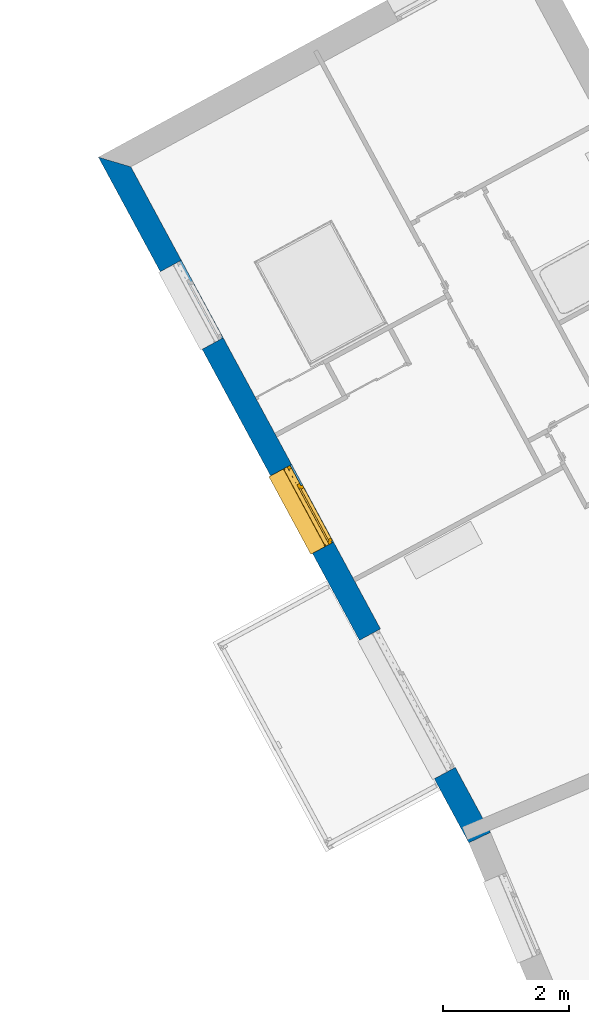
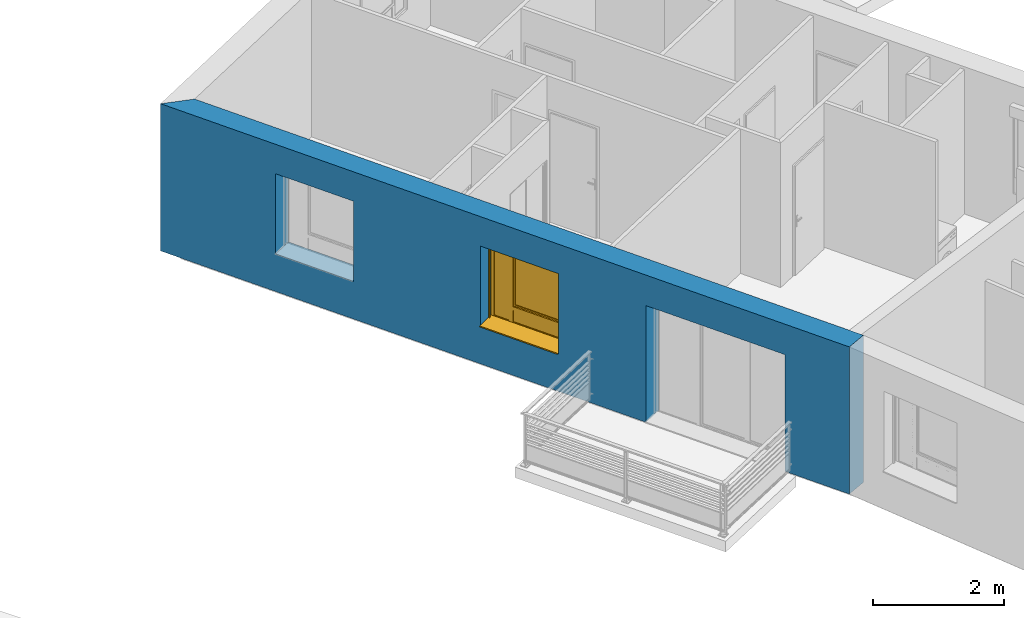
# One storey, part 51 of 121: 1 wall, 1 window, 3 openings.
"""IFC2X3 building model written with IfcOpenShell, lengths in metres."""

from ifc_helpers import new_model, entity, si_unit, converted_unit, derived_unit, money_unit, direction, frame, origin_with_axes, place, context, subcontext, project, spatial, polyline, outline, extrude, open_shell, faceted_brep, surface_model, source, transform, mapped, material, layer, layer_set, layer_usage, type_object, element, fill, save


model = new_model("IFC2X3")

# Units and contexts
model_context = context("Model", 3, precision=1e-05, world=origin_with_axes(), true_north=direction((0.0, 1.0)))
body_context = subcontext(model_context, "Body", "Model", "MODEL_VIEW")
ifc_project = project(units=[si_unit("LENGTHUNIT", "METRE"), si_unit("AREAUNIT", "SQUARE_METRE"), si_unit("VOLUMEUNIT", "CUBIC_METRE"), converted_unit("PLANEANGLEUNIT", "DEGREE", entity("IfcPlaneAngleMeasure", 0.0174532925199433), si_unit("PLANEANGLEUNIT", "RADIAN"), dimensions=[0, 0, 0, 0, 0, 0, 0]), money_unit("CHF"), converted_unit("TIMEUNIT", "Year", entity("IfcTimeMeasure", 31557600.0), si_unit("TIMEUNIT", "SECOND"), dimensions=[0, 0, 1, 0, 0, 0, 0]), si_unit("MASSUNIT", "GRAM", prefix="KILO"), si_unit("THERMODYNAMICTEMPERATUREUNIT", "DEGREE_CELSIUS"), si_unit("LUMINOUSINTENSITYUNIT", "LUMEN"), si_unit("ENERGYUNIT", "JOULE", prefix="MEGA"), derived_unit("THERMALCONDUCTANCEUNIT", [(si_unit("POWERUNIT", "WATT"), 1), (si_unit("LENGTHUNIT", "METRE"), -1), (si_unit("THERMODYNAMICTEMPERATUREUNIT", "KELVIN"), -1)]), derived_unit("SPECIFICHEATCAPACITYUNIT", [(si_unit("ENERGYUNIT", "JOULE"), 1), (si_unit("MASSUNIT", "GRAM", prefix="KILO"), -1), (si_unit("THERMODYNAMICTEMPERATUREUNIT", "KELVIN"), -1)]), derived_unit("MASSDENSITYUNIT", [(si_unit("MASSUNIT", "GRAM", prefix="KILO"), 1), (si_unit("VOLUMEUNIT", "CUBIC_METRE"), -1)])], contexts=[model_context])

# Site, building, storey
site_placement = place(None, origin_with_axes())
site = spatial("IfcSite", under=ifc_project, at=site_placement, Name="Site", CompositionType="ELEMENT")
building_placement = place(site_placement, origin_with_axes())
building = spatial("IfcBuilding", under=site, at=building_placement, Name="Bâtiment", CompositionType="ELEMENT")
storey_placement = place(building_placement, frame((0.0, 0.0, 2.75), z_axis=(0.0, 0.0, 1.0), x_axis=(1.0, 0.0, 0.0)))
storey = spatial("IfcBuildingStorey", under=building, at=storey_placement, Name="Etage 1", CompositionType="ELEMENT", Elevation=2.75)

# Wall, openings, window
ifc_material_1 = material(Name="Parpaing 312445824")
ifc_layer_1 = layer(ifc_material_1, 0.22, ventilated="UNKNOWN")
ifc_material_2 = material(Name="Isolant styromousse 301821074")
ifc_layer_2 = layer(ifc_material_2, 0.16, ventilated="UNKNOWN")
ifc_layer_set = layer_set([ifc_layer_1, ifc_layer_2], Name="isol int 22+16 0836643197")
ifc_layer_usage = layer_usage(ifc_layer_set, "AXIS2", "NEGATIVE", 0.0)
wall_type = type_object("IfcWallType", Name="isol int 22+16 0836643197 380", PredefinedType="NOTDEFINED")
wall_placement = place(storey_placement, frame((9560.431539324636, -1038.56391735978, 57.7), z_axis=(0.0, 0.0, 1.0), x_axis=(-0.4753186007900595, 0.8798137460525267, 0.0)))
wall = element("IfcWallStandardCase", 1, at=wall_placement, inside=storey, type_object=wall_type, material=ifc_layer_usage, Name="Mur-114", context=body_context, shape_type="SweptSolid", body=[
    extrude(outline(polyline([(-0.0183016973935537, -0.3799999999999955), (12.00124293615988, -0.3799999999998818), (12.38026927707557, 0.0), (0.0, 0.0), (-0.0183016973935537, -0.3799999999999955)])), origin_with_axes(), (0.0, 0.0, 1.0), 2.75),
])
opening_1_placement = place(wall_placement, frame((5.925867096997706, 0.0, 0.7000000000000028), z_axis=(0.0, 0.0, 1.0), x_axis=(1.0, 0.0, 0.0)))
opening_1 = element("IfcOpeningElement", 2, at=opening_1_placement, cuts=wall, Name="Fen-045", context=body_context, shape_type="Brep", body=[
    faceted_brep([(0.6999999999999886, -0.4800000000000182, 1.5), (-0.6999999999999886, -0.4799999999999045, 1.5), (-0.6999999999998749, -5.558327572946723, 1.5), (0.7000000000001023, -5.558327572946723, 1.5), (0.6999999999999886, -0.4800000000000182, 1.700000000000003), (-0.6999999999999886, -0.4799999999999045, 1.700000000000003), (-0.6999999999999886, -0.2999999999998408, 1.5), (-0.6999999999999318, -0.2999999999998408, 0.0), (-0.6999999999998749, -5.558327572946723, 0.0), (0.7000000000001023, -5.558327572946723, 0.0), (0.6999999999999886, -0.2999999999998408, 1.5), (0.7000000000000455, -0.2999999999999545, 0.0), (0.7000000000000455, -0.2200000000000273, 1.5), (0.7000000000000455, -0.2200000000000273, 1.700000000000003), (-0.6999999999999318, -0.2199999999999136, 1.700000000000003), (-0.6999999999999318, -0.2199999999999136, 1.5), (-0.6999999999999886, 5.178327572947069, 1.5), (-0.6999999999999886, 5.178327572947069, 0.0), (0.6999999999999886, 5.178327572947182, 0.0), (0.6999999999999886, 5.178327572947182, 1.5)], [[[0, 1, 2, 3]], [[1, 0, 4, 5]], [[1, 6, 7, 8, 2]], [[2, 8, 9, 3]], [[10, 0, 3, 9, 11]], [[0, 10, 12, 13, 4]], [[4, 13, 14, 5]], [[6, 1, 5, 14, 15]], [[6, 15, 16, 17, 7]], [[7, 11, 9, 8]], [[12, 10, 11, 18, 19]], [[12, 15, 14, 13]], [[15, 12, 19, 16]], [[19, 18, 17, 16]], [[11, 7, 17, 18]]]),
])
opening_2_placement = place(wall_placement, frame((2.406972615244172, 0.0, 0.0), z_axis=(0.0, 0.0, 1.0), x_axis=(1.0, 0.0, 0.0)))
element("IfcOpeningElement", 3, at=opening_2_placement, cuts=wall, Name="Fen-045", context=body_context, shape_type="Brep", body=[
    faceted_brep([(1.250000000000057, -0.4800000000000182, 2.18), (-1.25, -0.4800000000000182, 2.18), (-1.25, -5.558327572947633, 2.18), (1.25, -5.558327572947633, 2.18), (1.250000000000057, -0.4800000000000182, 2.380000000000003), (-1.25, -0.4800000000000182, 2.380000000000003), (-1.249999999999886, -0.3000000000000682, 2.18), (-1.25, -0.3000000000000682, 0.0), (-1.25, -5.558327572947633, 0.0), (1.25, -5.558327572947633, 0.0), (1.250000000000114, -0.3000000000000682, 2.18), (1.250000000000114, -0.3000000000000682, 0.0), (1.250000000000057, -0.2199999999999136, 2.18), (1.250000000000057, -0.2199999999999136, 2.380000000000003), (-1.25, -0.2200000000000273, 2.380000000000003), (-1.25, -0.2200000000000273, 2.18), (-1.25, 5.178327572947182, 2.18), (-1.25, 5.178327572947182, 0.0), (1.25, 5.178327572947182, 0.0), (1.25, 5.178327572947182, 2.18)], [[[0, 1, 2, 3]], [[1, 0, 4, 5]], [[1, 6, 7, 8, 2]], [[2, 8, 9, 3]], [[10, 0, 3, 9, 11]], [[0, 10, 12, 13, 4]], [[4, 13, 14, 5]], [[6, 1, 5, 14, 15]], [[6, 15, 16, 17, 7]], [[7, 11, 9, 8]], [[12, 10, 11, 18, 19]], [[12, 15, 14, 13]], [[15, 12, 19, 16]], [[19, 18, 17, 16]], [[11, 7, 17, 18]]]),
])
opening_3_placement = place(wall_placement, frame((9.612364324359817, 0.0, 0.7000000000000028), z_axis=(0.0, 0.0, 1.0), x_axis=(1.0, 0.0, 0.0)))
element("IfcOpeningElement", 4, at=opening_3_placement, cuts=wall, Name="Fen-045", context=body_context, shape_type="Brep", body=[
    faceted_brep([(0.7000000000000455, -0.4799999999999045, 1.5), (-0.6999999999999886, -0.4799999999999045, 1.5), (-0.6999999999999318, -5.558327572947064, 1.5), (0.7000000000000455, -5.558327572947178, 1.5), (0.7000000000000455, -0.4799999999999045, 1.700000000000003), (-0.6999999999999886, -0.4799999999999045, 1.700000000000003), (-0.6999999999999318, -0.2999999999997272, 1.5), (-0.6999999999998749, -0.2999999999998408, 0.0), (-0.6999999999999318, -5.558327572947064, 0.0), (0.7000000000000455, -5.558327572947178, 0.0), (0.7000000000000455, -0.2999999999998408, 1.5), (0.7000000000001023, -0.2999999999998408, 0.0), (0.6999999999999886, -0.2199999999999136, 1.5), (0.6999999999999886, -0.2199999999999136, 1.700000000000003), (-0.6999999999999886, -0.2199999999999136, 1.700000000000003), (-0.6999999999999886, -0.2199999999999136, 1.5), (-0.6999999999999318, 5.178327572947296, 1.5), (-0.6999999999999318, 5.178327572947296, 0.0), (0.7000000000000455, 5.178327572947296, 0.0), (0.7000000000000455, 5.178327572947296, 1.5)], [[[0, 1, 2, 3]], [[1, 0, 4, 5]], [[1, 6, 7, 8, 2]], [[2, 8, 9, 3]], [[10, 0, 3, 9, 11]], [[0, 10, 12, 13, 4]], [[4, 13, 14, 5]], [[6, 1, 5, 14, 15]], [[6, 15, 16, 17, 7]], [[7, 11, 9, 8]], [[12, 10, 11, 18, 19]], [[12, 15, 14, 13]], [[15, 12, 19, 16]], [[19, 18, 17, 16]], [[11, 7, 17, 18]]]),
])
window_style = type_object("IfcWindowStyle", Name="Fenêtre variable 27", ConstructionType="NOTDEFINED", OperationType="TRIPLE_PANEL_LEFT", ParameterTakesPrecedence=False, Sizeable=False)
shared_shape = source(origin_with_axes(), body_context, "Body", "SurfaceModel", [
    surface_model("IfcShellBasedSurfaceModel", [(0.7, -0.05100000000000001, 0.05), (-0.7, -0.05100000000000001, 0.05000000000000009), (-0.7, -0.05100000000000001, 0.04000000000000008), (0.7, -0.05100000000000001, 0.04), (-0.7, -0.3799999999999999, 0.02900000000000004), (0.7, -0.3799999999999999, 0.02899999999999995), (-0.7, -0.3799999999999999, 0.00900000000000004), (0.7, -0.3799999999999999, 0.008999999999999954), (-0.7, -0.3699999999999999, 0.01900000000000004), (0.7, -0.3699999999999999, 0.01899999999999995)], [open_shell([[[0, 1, 2, 3]], [[3, 2, 4, 5]], [[5, 4, 6, 7]], [[7, 6, 8, 9]]])]),
    faceted_brep([(0.7, -0.13, 1.7), (0.7, 0.13, 1.7), (0.697, 0.13, 1.7), (0.697, -0.13, 1.7), (0.7, -0.13, 1.5), (0.7, 0.13, 1.5), (0.697, 0.13, 1.5), (0.697, -0.13, 1.5)], [[[0, 1, 2, 3]], [[0, 4, 5, 1]], [[1, 5, 6, 2]], [[3, 2, 6, 7]], [[4, 0, 3, 7]], [[5, 4, 7, 6]]]),
    faceted_brep([(-0.6970000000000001, -0.1299999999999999, 1.7), (-0.6970000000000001, 0.1300000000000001, 1.7), (-0.7000000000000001, 0.1300000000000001, 1.7), (-0.7000000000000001, -0.1299999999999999, 1.7), (-0.6970000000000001, -0.1299999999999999, 1.5), (-0.6970000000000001, 0.1300000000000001, 1.5), (-0.7000000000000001, 0.1300000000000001, 1.5), (-0.7000000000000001, -0.1299999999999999, 1.5)], [[[0, 1, 2, 3]], [[0, 4, 5, 1]], [[1, 5, 6, 2]], [[3, 2, 6, 7]], [[4, 0, 3, 7]], [[5, 4, 7, 6]]]),
    faceted_brep([(0.697, -0.13, 1.5), (0.697, -0.13, 1.7), (-0.697, -0.1299999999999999, 1.7), (-0.697, -0.1299999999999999, 1.5), (0.697, -0.127, 1.5), (0.697, -0.127, 1.697), (0.697, 0.127, 1.697), (0.697, 0.127, 1.503), (0.697, -0.108, 1.503), (0.697, -0.108, 1.5), (0.697, 0.13, 1.5), (0.697, 0.13, 1.7), (-0.697, 0.1300000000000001, 1.7), (-0.697, 0.1300000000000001, 1.5), (-0.697, -0.1079999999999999, 1.5), (-0.697, -0.1079999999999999, 1.503), (-0.697, 0.1270000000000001, 1.503), (-0.697, 0.1270000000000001, 1.697), (-0.697, -0.1269999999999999, 1.697), (-0.697, -0.1269999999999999, 1.5)], [[[0, 1, 2, 3]], [[0, 4, 5, 6, 7, 8, 9, 10, 11, 1]], [[1, 11, 12, 2]], [[3, 2, 12, 13, 14, 15, 16, 17, 18, 19]], [[4, 0, 3, 19]], [[5, 4, 19, 18]], [[6, 5, 18, 17]], [[7, 6, 17, 16]], [[8, 7, 16, 15]], [[9, 8, 15, 14]], [[10, 9, 14, 13]], [[11, 10, 13, 12]]]),
    faceted_brep([(0.694, -0.08075423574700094, 1.585760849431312), (0.694, -0.07705479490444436, 1.571954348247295), (0.694, -0.07101408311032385, 1.559), (0.694, -0.06281564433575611, 1.547291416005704), (0.694, -0.05270858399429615, 1.537184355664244), (0.694, -0.04099999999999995, 1.528985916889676), (0.694, -0.02804565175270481, 1.522945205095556), (0.694, -0.01423915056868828, 1.519245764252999), (0.694, 0.0, 1.518), (0.694, 0.01423915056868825, 1.519245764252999), (0.694, 0.02804565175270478, 1.522945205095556), (0.694, 0.04099999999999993, 1.528985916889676), (0.694, 0.05270858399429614, 1.537184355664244), (0.694, 0.06281564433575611, 1.547291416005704), (0.694, 0.07101408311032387, 1.559), (0.694, 0.07705479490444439, 1.571954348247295), (0.694, 0.08075423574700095, 1.585760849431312), (0.694, 0.0819999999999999, 1.6), (0.694, 0.08075423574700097, 1.614239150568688), (0.694, 0.0770547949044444, 1.628045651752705), (0.694, 0.07101408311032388, 1.641), (0.694, 0.06281564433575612, 1.652708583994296), (0.694, 0.05270858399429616, 1.662815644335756), (0.694, 0.04099999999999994, 1.671014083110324), (0.694, 0.02804565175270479, 1.677054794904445), (0.694, 0.01423915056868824, 1.680754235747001), (0.694, 0.0, 1.682), (0.694, -0.01423915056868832, 1.680754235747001), (0.694, -0.02804565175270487, 1.677054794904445), (0.694, -0.04100000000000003, 1.671014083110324), (0.694, -0.05270858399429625, 1.662815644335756), (0.694, -0.06281564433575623, 1.652708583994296), (0.694, -0.07101408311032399, 1.641), (0.694, -0.07705479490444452, 1.628045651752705), (0.694, -0.0807542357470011, 1.614239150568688), (0.694, -0.08200000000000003, 1.6), (-0.694, -0.08075423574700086, 1.585760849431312), (-0.694, -0.07705479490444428, 1.571954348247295), (-0.694, -0.07101408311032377, 1.559), (-0.694, -0.06281564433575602, 1.547291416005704), (-0.694, -0.05270858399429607, 1.537184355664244), (-0.694, -0.04099999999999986, 1.528985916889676), (-0.694, -0.02804565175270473, 1.522945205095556), (-0.694, -0.0142391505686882, 1.519245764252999), (-0.694, 0.0, 1.518), (-0.694, 0.01423915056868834, 1.519245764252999), (-0.694, 0.02804565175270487, 1.522945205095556), (-0.694, 0.04100000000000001, 1.528985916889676), (-0.694, 0.05270858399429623, 1.537184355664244), (-0.694, 0.06281564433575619, 1.547291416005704), (-0.694, 0.07101408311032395, 1.559), (-0.694, 0.07705479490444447, 1.571954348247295), (-0.694, 0.08075423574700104, 1.585760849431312), (-0.694, 0.08199999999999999, 1.6), (-0.694, 0.08075423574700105, 1.614239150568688), (-0.694, 0.07705479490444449, 1.628045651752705), (-0.694, 0.07101408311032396, 1.641), (-0.694, 0.0628156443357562, 1.652708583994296), (-0.694, 0.05270858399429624, 1.662815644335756), (-0.694, 0.04100000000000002, 1.671014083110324), (-0.694, 0.02804565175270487, 1.677054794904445), (-0.694, 0.01423915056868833, 1.680754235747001), (-0.694, 0.0, 1.682), (-0.694, -0.01423915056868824, 1.680754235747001), (-0.694, -0.02804565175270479, 1.677054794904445), (-0.694, -0.04099999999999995, 1.671014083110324), (-0.694, -0.05270858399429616, 1.662815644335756), (-0.694, -0.06281564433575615, 1.652708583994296), (-0.694, -0.07101408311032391, 1.641), (-0.694, -0.07705479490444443, 1.628045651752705), (-0.694, -0.08075423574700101, 1.614239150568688), (-0.694, -0.08199999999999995, 1.6)], [[[0, 1, 2, 3, 4, 5, 6, 7, 8, 9, 10, 11, 12, 13, 14, 15, 16, 17, 18, 19, 20, 21, 22, 23, 24, 25, 26, 27, 28, 29, 30, 31, 32, 33, 34, 35]], [[1, 0, 36, 37]], [[2, 1, 37, 38]], [[3, 2, 38, 39]], [[4, 3, 39, 40]], [[5, 4, 40, 41]], [[6, 5, 41, 42]], [[7, 6, 42, 43]], [[8, 7, 43, 44]], [[9, 8, 44, 45]], [[10, 9, 45, 46]], [[11, 10, 46, 47]], [[12, 11, 47, 48]], [[13, 12, 48, 49]], [[14, 13, 49, 50]], [[15, 14, 50, 51]], [[16, 15, 51, 52]], [[17, 16, 52, 53]], [[18, 17, 53, 54]], [[19, 18, 54, 55]], [[20, 19, 55, 56]], [[21, 20, 56, 57]], [[22, 21, 57, 58]], [[23, 22, 58, 59]], [[24, 23, 59, 60]], [[25, 24, 60, 61]], [[26, 25, 61, 62]], [[27, 26, 62, 63]], [[28, 27, 63, 64]], [[29, 28, 64, 65]], [[30, 29, 65, 66]], [[31, 30, 66, 67]], [[32, 31, 67, 68]], [[33, 32, 68, 69]], [[34, 33, 69, 70]], [[35, 34, 70, 71]], [[0, 35, 71, 36]], [[36, 71, 70, 69, 68, 67, 66, 65, 64, 63, 62, 61, 60, 59, 58, 57, 56, 55, 54, 53, 52, 51, 50, 49, 48, 47, 46, 45, 44, 43, 42, 41, 40, 39, 38, 37]]]),
    faceted_brep([(-0.7, -0.105, 0.03), (-0.7, -0.13, 0.03), (-0.7, -0.1299999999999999, 1.5), (-0.7, -0.1049999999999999, 1.5), (-0.6749999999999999, -0.105, 0.03), (-0.6749999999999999, -0.108, 0.03), (-0.697, -0.108, 0.03), (-0.697, -0.127, 0.03), (-0.6749999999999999, -0.127, 0.03), (-0.6749999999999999, -0.13, 0.03), (-0.6749999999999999, -0.1299999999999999, 1.5), (-0.6749999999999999, -0.1269999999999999, 1.5), (-0.697, -0.1269999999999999, 1.5), (-0.697, -0.1079999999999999, 1.5), (-0.6749999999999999, -0.1079999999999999, 1.5), (-0.6749999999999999, -0.1049999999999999, 1.5)], [[[0, 1, 2, 3]], [[0, 4, 5, 6, 7, 8, 9, 1]], [[1, 9, 10, 2]], [[3, 2, 10, 11, 12, 13, 14, 15]], [[4, 0, 3, 15]], [[5, 4, 15, 14]], [[6, 5, 14, 13]], [[7, 6, 13, 12]], [[8, 7, 12, 11]], [[9, 8, 11, 10]]]),
    faceted_brep([(0.7, -0.105, 0.03), (0.7, -0.1049999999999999, 1.5), (0.7, -0.1299999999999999, 1.5), (0.7, -0.13, 0.03), (0.6749999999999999, -0.105, 0.03), (0.6749999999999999, -0.1049999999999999, 1.5), (0.6749999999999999, -0.1079999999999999, 1.5), (0.697, -0.1079999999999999, 1.5), (0.697, -0.1269999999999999, 1.5), (0.6749999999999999, -0.1269999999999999, 1.5), (0.6749999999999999, -0.1299999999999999, 1.5), (0.6749999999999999, -0.13, 0.03), (0.6749999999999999, -0.127, 0.03), (0.697, -0.127, 0.03), (0.697, -0.108, 0.03), (0.6749999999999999, -0.108, 0.03)], [[[0, 1, 2, 3]], [[4, 5, 1, 0]], [[1, 5, 6, 7, 8, 9, 10, 2]], [[3, 2, 10, 11]], [[0, 3, 11, 12, 13, 14, 15, 4]], [[15, 6, 5, 4]], [[14, 7, 6, 15]], [[13, 8, 7, 14]], [[12, 9, 8, 13]], [[11, 10, 9, 12]]]),
    surface_model("IfcShellBasedSurfaceModel", [(0.697, -0.115, 1.6), (-0.697, -0.1149999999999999, 1.6), (-0.697, -0.12, 1.6), (0.697, -0.12, 1.6), (0.697, -0.115, 1.6), (0.697, -0.12, 1.6), (-0.697, -0.1199999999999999, 1.6), (-0.697, -0.1149999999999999, 1.6)], [open_shell([[[0, 1, 2, 3]], [[4, 5, 6, 7]]])]),
    faceted_brep([(0.697, -0.115, 1.6), (0.697, -0.1166666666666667, 1.583333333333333), (-0.697, -0.1166666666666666, 1.583333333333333), (-0.697, -0.1149999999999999, 1.6), (0.697, -0.12, 1.6), (0.697, -0.1216666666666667, 1.583333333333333), (0.697, -0.1216666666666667, 1.566666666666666), (0.697, -0.12, 1.55), (0.697, -0.115, 1.55), (0.697, -0.1166666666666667, 1.566666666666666), (-0.697, -0.1166666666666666, 1.566666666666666), (-0.697, -0.1149999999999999, 1.55), (-0.697, -0.1199999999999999, 1.55), (-0.697, -0.1216666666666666, 1.566666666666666), (-0.697, -0.1216666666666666, 1.583333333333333), (-0.697, -0.1199999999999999, 1.6)], [[[0, 1, 2, 3]], [[0, 4, 5, 6, 7, 8, 9, 1]], [[1, 9, 10, 2]], [[3, 2, 10, 11, 12, 13, 14, 15]], [[4, 0, 3, 15]], [[5, 4, 15, 14]], [[6, 5, 14, 13]], [[7, 6, 13, 12]], [[8, 7, 12, 11]], [[9, 8, 11, 10]]]),
    faceted_brep([(0.697, -0.115, 1.55), (0.697, -0.1166666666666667, 1.533333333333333), (-0.697, -0.1166666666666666, 1.533333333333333), (-0.697, -0.1149999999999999, 1.55), (0.697, -0.12, 1.55), (0.697, -0.1216666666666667, 1.533333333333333), (0.697, -0.1216666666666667, 1.516666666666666), (0.697, -0.12, 1.5), (0.697, -0.115, 1.5), (0.697, -0.1166666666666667, 1.516666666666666), (-0.697, -0.1166666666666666, 1.516666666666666), (-0.697, -0.1149999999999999, 1.5), (-0.697, -0.1199999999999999, 1.5), (-0.697, -0.1216666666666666, 1.516666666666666), (-0.697, -0.1216666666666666, 1.533333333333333), (-0.697, -0.1199999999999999, 1.55)], [[[0, 1, 2, 3]], [[0, 4, 5, 6, 7, 8, 9, 1]], [[1, 9, 10, 2]], [[3, 2, 10, 11, 12, 13, 14, 15]], [[4, 0, 3, 15]], [[5, 4, 15, 14]], [[6, 5, 14, 13]], [[7, 6, 13, 12]], [[8, 7, 12, 11]], [[9, 8, 11, 10]]]),
    faceted_brep([(0.6749999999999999, 0.0, 1.45), (0.6749999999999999, -0.02500000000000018, 1.45), (0.6499999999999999, -0.02500000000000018, 1.45), (0.6499999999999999, -0.05000000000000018, 1.45), (0.7, -0.05000000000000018, 1.45), (0.7, 0.0, 1.45), (0.6749999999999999, 0.0, 0.3099999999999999), (0.6749999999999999, -0.02500000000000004, 0.3099999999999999), (0.6499999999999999, -0.02500000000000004, 0.335), (0.6499999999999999, -0.02500000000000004, 0.3099999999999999), (0.6499999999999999, -0.05000000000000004, 0.335), (0.6499999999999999, -0.05000000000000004, 0.265), (0.6499999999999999, -0.05000000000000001, 0.05000000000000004), (0.7, -0.05000000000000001, 0.05000000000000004), (0.7, 0.0, 0.05000000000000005), (0.6499999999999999, 0.0, 0.05000000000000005), (0.6499999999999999, 0.0, 0.265), (0.6499999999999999, 0.0, 0.3099999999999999)], [[[0, 1, 2, 3, 4, 5]], [[1, 0, 6, 7]], [[8, 2, 1, 7, 9]], [[2, 8, 10, 3]], [[10, 11, 12, 13, 4, 3]], [[5, 4, 13, 14]], [[6, 0, 5, 14, 15, 16, 17]], [[6, 17, 9, 7]], [[9, 17, 16, 11, 10, 8]], [[15, 12, 11, 16]], [[14, 13, 12, 15]]]),
    faceted_brep([(-0.3068894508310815, -0.02500000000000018, 1.45), (-0.3318894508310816, -0.02500000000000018, 1.45), (-0.3318894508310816, 0.0, 1.45), (-0.3768894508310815, 0.0, 1.45), (-0.3768894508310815, -0.05000000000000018, 1.45), (-0.3068894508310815, -0.05000000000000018, 1.45), (-0.3068894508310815, -0.02500000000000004, 0.335), (-0.3068894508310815, -0.02500000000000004, 0.3099999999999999), (-0.3318894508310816, -0.02500000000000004, 0.3099999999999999), (-0.3318894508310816, 0.0, 0.3099999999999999), (-0.3068894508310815, 0.0, 0.3099999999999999), (-0.3068894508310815, 0.0, 0.265), (-0.3068894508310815, 0.0, 0.05000000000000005), (-0.3768894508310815, 0.0, 0.05000000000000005), (-0.3768894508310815, -0.05000000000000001, 0.05000000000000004), (-0.3068894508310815, -0.05000000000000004, 0.265), (-0.3068894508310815, -0.05000000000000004, 0.335), (-0.3068894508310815, -0.05000000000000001, 0.05000000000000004)], [[[0, 1, 2, 3, 4, 5]], [[1, 0, 6, 7, 8]], [[9, 2, 1, 8]], [[9, 10, 11, 12, 13, 3, 2]], [[13, 14, 4, 3]], [[15, 16, 5, 4, 14, 17]], [[6, 0, 5, 16]], [[7, 6, 16, 15, 11, 10]], [[10, 9, 8, 7]], [[11, 15, 17, 12]], [[12, 17, 14, 13]]]),
    faceted_brep([(0.6499999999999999, -0.02500000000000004, 0.335), (-0.3068894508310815, -0.02500000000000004, 0.335), (-0.3068894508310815, -0.05000000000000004, 0.335), (0.6499999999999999, -0.05000000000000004, 0.335), (-0.3068894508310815, -0.02500000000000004, 0.3099999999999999), (0.6499999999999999, -0.02500000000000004, 0.3099999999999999), (-0.3068894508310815, 0.0, 0.3099999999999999), (-0.3068894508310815, 0.0, 0.265), (-0.3068894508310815, -0.05000000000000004, 0.265), (0.6499999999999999, -0.05000000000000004, 0.265), (0.6499999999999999, 0.0, 0.265), (0.6499999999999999, 0.0, 0.3099999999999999)], [[[0, 1, 2, 3]], [[4, 1, 0, 5]], [[4, 6, 7, 8, 2, 1]], [[2, 8, 9, 3]], [[5, 0, 3, 9, 10, 11]], [[11, 6, 4, 5]], [[6, 11, 10, 7]], [[10, 9, 8, 7]]]),
    faceted_brep([(0.6749999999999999, 0.0, 1.45), (0.6749999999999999, 0.0, 1.475), (-0.3318894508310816, 0.0, 1.475), (-0.3318894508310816, 0.0, 1.45), (-0.3768894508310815, 0.0, 1.45), (-0.6499999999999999, 0.0, 1.45), (-0.7, 0.0, 1.45), (-0.7, 0.0, 1.5), (0.7, 0.0, 1.5), (0.7, 0.0, 1.45), (0.6749999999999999, -0.02500000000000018, 1.45), (0.6749999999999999, -0.02500000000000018, 1.475), (-0.3318894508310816, -0.02500000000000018, 1.475), (-0.3318894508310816, -0.02500000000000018, 1.45), (-0.3068894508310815, -0.02500000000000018, 1.45), (-0.3068894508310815, -0.05000000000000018, 1.45), (-0.3768894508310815, -0.05000000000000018, 1.45), (-0.6499999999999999, -0.05000000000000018, 1.45), (-0.7, -0.05000000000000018, 1.45), (-0.7, -0.05000000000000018, 1.5), (0.7, -0.05000000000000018, 1.5), (0.7, -0.05000000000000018, 1.45), (0.6499999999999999, -0.05000000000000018, 1.45), (0.6499999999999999, -0.02500000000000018, 1.45)], [[[0, 1, 2, 3, 4, 5, 6, 7, 8, 9]], [[1, 0, 10, 11]], [[2, 1, 11, 12]], [[3, 2, 12, 13]], [[13, 14, 15, 16, 4, 3]], [[4, 16, 17, 5]], [[5, 17, 18, 6]], [[6, 18, 19, 7]], [[7, 19, 20, 8]], [[8, 20, 21, 9]], [[10, 0, 9, 21, 22, 23]], [[14, 13, 12, 11, 10, 23]], [[14, 23, 22, 15]], [[16, 15, 22, 21, 20, 19, 18, 17]]]),
    faceted_brep([(-0.6499999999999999, -0.05000000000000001, 0.05), (-0.7, -0.05000000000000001, 0.05), (-0.7, 0.0, 0.05000000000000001), (-0.6499999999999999, 0.0, 0.05000000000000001), (-0.6499999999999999, -0.05000000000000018, 1.45), (-0.7, -0.05000000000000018, 1.45), (-0.7, 0.0, 1.45), (-0.6499999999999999, 0.0, 1.45)], [[[0, 1, 2, 3]], [[0, 4, 5, 1]], [[1, 5, 6, 2]], [[3, 2, 6, 7]], [[4, 0, 3, 7]], [[5, 4, 7, 6]]]),
    faceted_brep([(0.6499999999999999, -0.05000000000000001, 0.05), (0.7, -0.05000000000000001, 0.05), (0.7, 0.0, 0.05000000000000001), (0.6499999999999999, 0.0, 0.05000000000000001), (-0.3068894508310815, -0.05000000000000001, 0.05), (-0.3768894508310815, -0.05000000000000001, 0.05), (-0.6499999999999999, -0.05000000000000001, 0.05), (-0.7, -0.05000000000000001, 0.05), (-0.7, -0.05, 0.0), (0.7, -0.05, 0.0), (0.7, 0.0, 0.0), (-0.7, 0.0, 0.0), (-0.7, 0.0, 0.05000000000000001), (-0.6499999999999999, 0.0, 0.05000000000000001), (-0.3768894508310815, 0.0, 0.05000000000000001), (-0.3068894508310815, 0.0, 0.05000000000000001)], [[[0, 1, 2, 3]], [[0, 4, 5, 6, 7, 8, 9, 1]], [[1, 9, 10, 2]], [[3, 2, 10, 11, 12, 13, 14, 15]], [[4, 0, 3, 15]], [[5, 4, 15, 14]], [[6, 5, 14, 13]], [[7, 6, 13, 12]], [[8, 7, 12, 11]], [[9, 8, 11, 10]]]),
    faceted_brep([(0.625, -0.02500000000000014, 1.425), (0.6749999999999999, -0.02500000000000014, 1.425), (0.6749999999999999, 0.02499999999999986, 1.425), (0.625, 0.02499999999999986, 1.425), (0.625, -0.02500000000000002, 0.3599999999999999), (0.6749999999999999, -0.02500000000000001, 0.3599999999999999), (0.6749999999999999, 0.02499999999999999, 0.3599999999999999), (0.625, 0.02499999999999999, 0.3599999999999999)], [[[0, 1, 2, 3]], [[0, 4, 5, 1]], [[1, 5, 6, 2]], [[3, 2, 6, 7]], [[4, 0, 3, 7]], [[5, 4, 7, 6]]]),
    faceted_brep([(-0.2818894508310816, -0.02500000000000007, 0.3599999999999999), (-0.3318894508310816, -0.02500000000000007, 0.3599999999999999), (-0.3318894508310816, 0.02499999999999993, 0.3599999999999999), (-0.2818894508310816, 0.02499999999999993, 0.3599999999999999), (-0.2818894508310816, -0.0250000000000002, 1.425), (-0.3318894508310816, -0.0250000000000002, 1.425), (-0.3318894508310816, 0.0249999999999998, 1.425), (-0.2818894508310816, 0.0249999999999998, 1.425)], [[[0, 1, 2, 3]], [[0, 4, 5, 1]], [[1, 5, 6, 2]], [[3, 2, 6, 7]], [[4, 0, 3, 7]], [[5, 4, 7, 6]]]),
    faceted_brep([(-0.3318894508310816, -0.02500000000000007, 0.3099999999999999), (-0.3318894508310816, -0.02500000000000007, 0.3599999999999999), (-0.3318894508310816, 0.02499999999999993, 0.3599999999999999), (-0.3318894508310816, 0.02499999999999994, 0.3099999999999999), (0.6749999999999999, -0.025, 0.3099999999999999), (0.6749999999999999, -0.02500000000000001, 0.3599999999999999), (0.625, -0.02500000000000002, 0.3599999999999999), (-0.2818894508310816, -0.02500000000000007, 0.3599999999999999), (-0.2818894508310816, 0.02499999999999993, 0.3599999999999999), (0.625, 0.02499999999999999, 0.3599999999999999), (0.6749999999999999, 0.02499999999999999, 0.3599999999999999), (0.6749999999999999, 0.02499999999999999, 0.3099999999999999)], [[[0, 1, 2, 3]], [[0, 4, 5, 6, 7, 1]], [[1, 7, 8, 2]], [[3, 2, 8, 9, 10, 11]], [[4, 0, 3, 11]], [[5, 4, 11, 10]], [[6, 5, 10, 9]], [[7, 6, 9, 8]]]),
    faceted_brep([(0.6749999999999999, -0.02500000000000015, 1.475), (0.6749999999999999, -0.02500000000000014, 1.425), (0.6749999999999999, 0.02499999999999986, 1.425), (0.6749999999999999, 0.02499999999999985, 1.475), (-0.3318894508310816, -0.02500000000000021, 1.475), (-0.3318894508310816, -0.0250000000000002, 1.425), (-0.2818894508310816, -0.0250000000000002, 1.425), (0.625, -0.02500000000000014, 1.425), (0.625, 0.02499999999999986, 1.425), (-0.2818894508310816, 0.0249999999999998, 1.425), (-0.3318894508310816, 0.0249999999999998, 1.425), (-0.3318894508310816, 0.02499999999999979, 1.475)], [[[0, 1, 2, 3]], [[0, 4, 5, 6, 7, 1]], [[1, 7, 8, 2]], [[3, 2, 8, 9, 10, 11]], [[4, 0, 3, 11]], [[5, 4, 11, 10]], [[6, 5, 10, 9]], [[7, 6, 9, 8]]]),
    surface_model("IfcShellBasedSurfaceModel", [(0.625, -0.01000000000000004, 0.3599999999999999), (0.625, -0.01000000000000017, 1.425), (-0.2818894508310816, -0.01000000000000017, 1.425), (-0.2818894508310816, -0.01000000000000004, 0.3599999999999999)], [open_shell([[[0, 1, 2, 3]]])]),
    surface_model("IfcShellBasedSurfaceModel", [(0.625, 0.009999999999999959, 0.3599999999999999), (-0.2818894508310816, 0.009999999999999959, 0.3599999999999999), (-0.2818894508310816, 0.00999999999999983, 1.425), (0.625, 0.00999999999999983, 1.425)], [open_shell([[[0, 1, 2, 3]]])]),
    surface_model("IfcShellBasedSurfaceModel", [(-0.3768894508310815, -0.035, 0.05), (-0.3768894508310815, -0.03500000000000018, 1.45), (-0.65, -0.03500000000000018, 1.45), (-0.65, -0.035, 0.05)], [open_shell([[[0, 1, 2, 3]]])]),
    surface_model("IfcShellBasedSurfaceModel", [(-0.3768894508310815, -0.015, 0.05), (-0.65, -0.015, 0.05), (-0.65, -0.01500000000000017, 1.45), (-0.3768894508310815, -0.01500000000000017, 1.45)], [open_shell([[[0, 1, 2, 3]]])]),
    surface_model("IfcShellBasedSurfaceModel", [(0.6499999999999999, -0.035, 0.05), (0.6499999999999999, -0.03500000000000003, 0.265), (-0.3068894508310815, -0.03500000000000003, 0.265), (-0.3068894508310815, -0.035, 0.05)], [open_shell([[[0, 1, 2, 3]]])]),
    surface_model("IfcShellBasedSurfaceModel", [(0.6499999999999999, -0.015, 0.05), (-0.3068894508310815, -0.015, 0.05), (-0.3068894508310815, -0.01500000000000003, 0.265), (0.6499999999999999, -0.01500000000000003, 0.265)], [open_shell([[[0, 1, 2, 3]]])]),
])
window_placement = place(opening_1_placement, frame((0.7000000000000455, 0.0, 0.0), z_axis=(0.0, 0.0, 1.0), x_axis=(-1.0, 0.0, 0.0)))
window = element("IfcWindow", 5, at=window_placement, inside=storey, type_object=window_style, Name="Fen-045", OverallHeight=1.5, OverallWidth=1.4, context=body_context, shape_type="MappedRepresentation", body=[
    mapped(shared_shape, transform((0.7000000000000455, 0.3500000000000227, 0.0))),
])
fill(opening_1, window)

save(model, "model.ifc")
